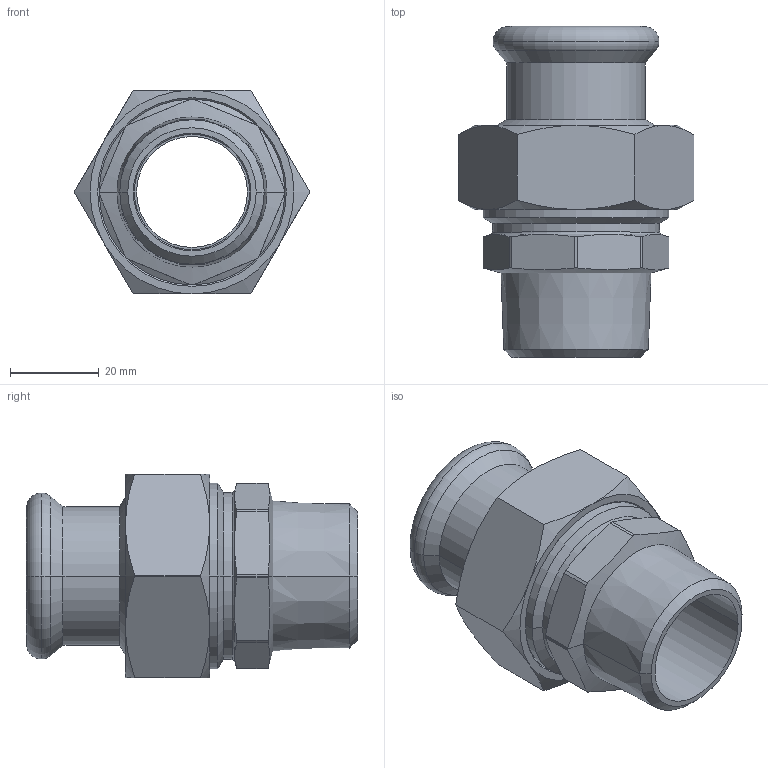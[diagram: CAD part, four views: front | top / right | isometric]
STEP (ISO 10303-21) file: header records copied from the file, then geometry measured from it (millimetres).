
FILE_DESCRIPTION(('CoCreate Modeling STEP Export'),'2;1');
FILE_NAME('C1435 28xR1.stp','2014-11-12T16:31:51',(''),(''),'CoCreate Modeling STEP processor for AP214 (Solid Model)','CoCreate Modeling 17.00A 17-Jun-2010 (C) Parametric Technology GmbH','');
FILE_SCHEMA(('AUTOMOTIVE_DESIGN { 1 0 10303 214 1 1 1 1 }'));
Length unit declared in the file: millimetre
Products named in the file (2): C1435_28xR1
Assembly tree (1 placements, depth 2):
  C1435_28xR1
    C1435_28xR1
Bounding box: 53.12 x 74.7 x 46 mm (x, y, z)
Volume: 42378.7 mm3; surface area: 21155.2 mm2
Topology: 1 solids, 1 shells, 117 faces, 264 edges, 156 vertices
Faces by surface type: cone 42, cylinder 42, plane 23, torus 10
Entity records: 4274 total; most frequent: CARTESIAN_POINT 2104, ORIENTED_EDGE 528, DIRECTION 322, EDGE_CURVE 264, VERTEX_POINT 156, EDGE_LOOP 126, AXIS2_PLACEMENT_3D 118, FACE_OUTER_BOUND 117
